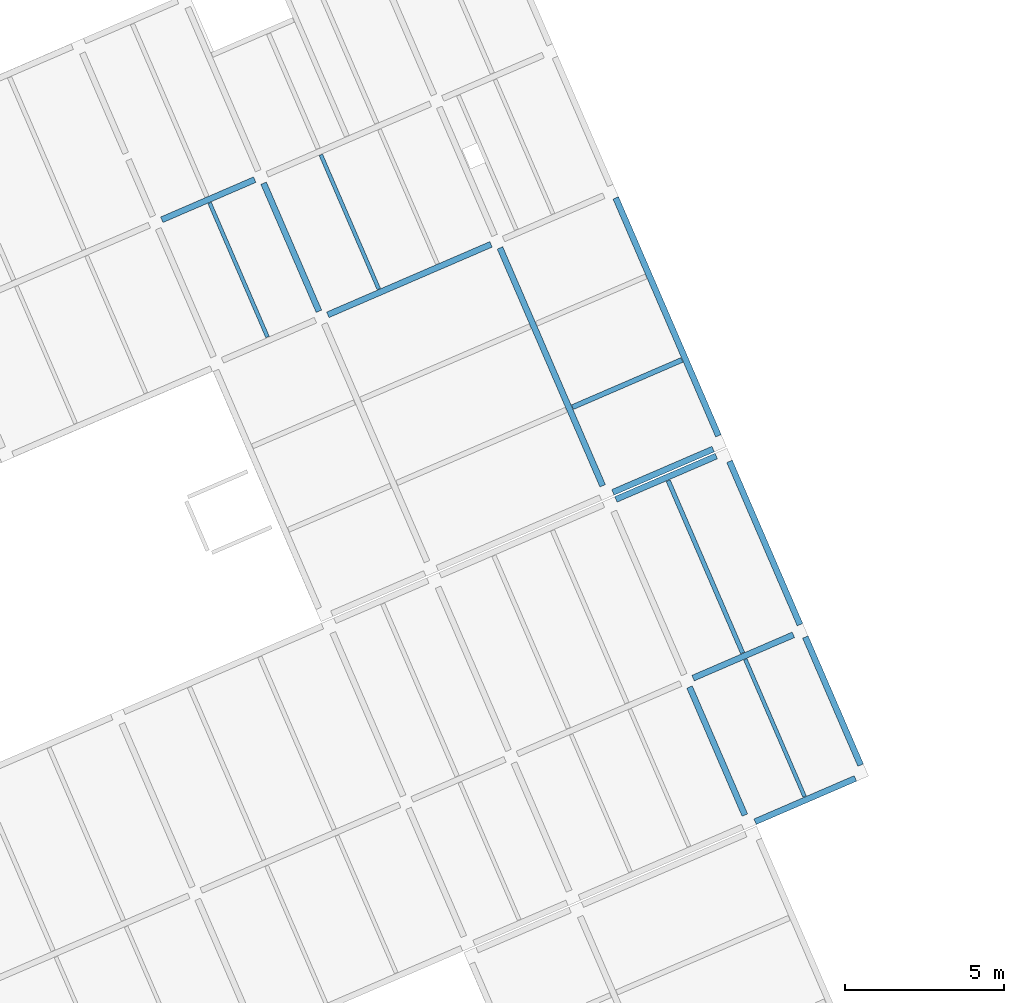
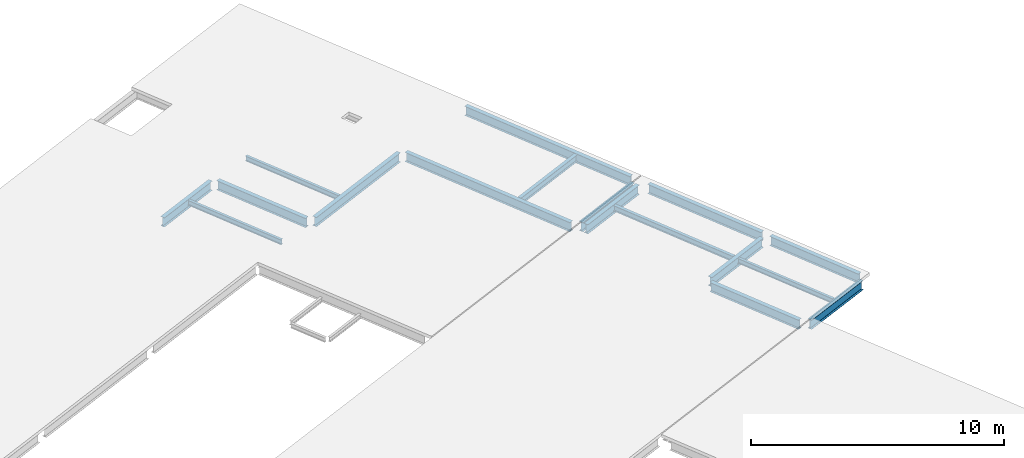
# One storey, part 13 of 15: 17 beams.
"""IFC4 building model written with IfcOpenShell, lengths in metres."""

import ifcopenshell
import ifcopenshell.guid

model = None  # the IFC model being written
_history = None  # IfcOwnerHistory: only IFC2X3 demands one
_inside = {}  # id of a spatial element -> (the spatial element, [elements in it])
_under = {}  # id of a project, library or spatial element -> (it, [spatial elements below it])
_declared = {}  # id of a project -> (the project, [libraries it declares])
_typed = {}  # id of a type object -> (the type object, [elements of that type])
_made_of = {}  # id of a material, layer set ... -> (it, [elements and type objects made of it])


def new_model(schema):
    """Start an empty IFC model of exactly this schema.

    Asked for "IFC4X3", IfcOpenShell would pick the latest addendum, in which some entities
    have other attributes; the version numbers below select the first issue.
    IFC2X3 requires an IfcOwnerHistory on every rooted entity: one is made here for all.
    """
    global model, _history
    if schema == "IFC4X3":
        model = ifcopenshell.file(schema_version=(4, 3, 0, 0))
    else:
        model = ifcopenshell.file(schema=schema)
    _inside.clear()
    _under.clear()
    _declared.clear()
    _typed.clear()
    _made_of.clear()
    _history = None
    if model.schema == "IFC2X3":
        org = make("IfcOrganization", Name="unknown")
        user = make(
            "IfcPersonAndOrganization",
            ThePerson=make("IfcPerson", FamilyName="unknown"),
            TheOrganization=org,
        )
        app = make(
            "IfcApplication",
            ApplicationDeveloper=org,
            Version="unknown",
            ApplicationFullName="unknown",
            ApplicationIdentifier="unknown",
        )
        _history = make(
            "IfcOwnerHistory",
            OwningUser=user,
            OwningApplication=app,
            ChangeAction="ADDED",
            CreationDate=0,
        )
    return model


def make(cls, **values):
    """One entity of the class cls with the attributes given. An attribute that is None is left unset."""
    return model.create_entity(
        cls, **{name: value for name, value in values.items() if value is not None}
    )


def entity(cls, *values):
    """Any entity or typed value of the class cls, its attributes in the order of the schema. None: left unset."""
    e = model.create_entity(cls)
    for i, value in enumerate(values):
        if value is not None:
            e[i] = value
    return e


def rooted(cls, **values):
    """An entity with a GlobalId (a new one), such as an element, a storey or a relation."""
    return make(cls, GlobalId=ifcopenshell.guid.new(), OwnerHistory=_history, **values)


def si_unit(unit_type, name, prefix=None):
    """IfcSIUnit, for example si_unit("LENGTHUNIT", "METRE", prefix="MILLI")."""
    return make("IfcSIUnit", UnitType=unit_type, Prefix=prefix, Name=name)


def converted_unit(unit_type, name, factor, base, dimensions=None, offset=None):
    """IfcConversionBasedUnit, such as the inch: factor (a typed value) times the base unit."""
    return make(
        "IfcConversionBasedUnit"
        if offset is None
        else "IfcConversionBasedUnitWithOffset",
        ConversionOffset=offset,
        Dimensions=None
        if dimensions is None
        else entity("IfcDimensionalExponents", *dimensions),
        UnitType=unit_type,
        Name=name,
        ConversionFactor=make(
            "IfcMeasureWithUnit", ValueComponent=factor, UnitComponent=base
        ),
    )


def derived_unit(unit_type, elements):
    """IfcDerivedUnit: a product of units, each with its exponent."""
    return make(
        "IfcDerivedUnit",
        Elements=[
            make("IfcDerivedUnitElement", Unit=unit, Exponent=power)
            for unit, power in elements
        ],
        UnitType=unit_type,
    )


def assignment(units):
    """IfcUnitAssignment: the units of a project."""
    return None if units is None else make("IfcUnitAssignment", Units=units)


def point(xyz):
    """IfcCartesianPoint."""
    return None if xyz is None else make("IfcCartesianPoint", Coordinates=xyz)


def direction(xyz):
    """IfcDirection."""
    return None if xyz is None else make("IfcDirection", DirectionRatios=xyz)


def frame(location, z_axis=None, x_axis=None):
    """IfcAxis2Placement3D, a coordinate frame: its origin and axes. An axis left out is left unset."""
    return make(
        "IfcAxis2Placement3D",
        Location=point(location),
        Axis=direction(z_axis),
        RefDirection=direction(x_axis),
    )


def origin():
    """The frame at (0, 0, 0) with its axes left unset."""
    return frame((0.0, 0.0, 0.0))


def place(relative_to, where):
    """IfcLocalPlacement: puts the frame where relative to a parent placement (None: the world)."""
    return make(
        "IfcLocalPlacement", PlacementRelTo=relative_to, RelativePlacement=where
    )


def context(
    kind, dimensions, precision=None, world=None, true_north=None, identifier=None
):
    """IfcGeometricRepresentationContext, for example the 3D "Model" context."""
    return make(
        "IfcGeometricRepresentationContext",
        ContextIdentifier=identifier,
        ContextType=kind,
        CoordinateSpaceDimension=dimensions,
        Precision=precision,
        WorldCoordinateSystem=world,
        TrueNorth=true_north,
    )


def subcontext(parent, identifier, kind, view, scale=None):
    """IfcGeometricRepresentationSubContext, for example "Body" below "Model"."""
    return make(
        "IfcGeometricRepresentationSubContext",
        ContextIdentifier=identifier,
        ContextType=kind,
        ParentContext=parent,
        TargetScale=scale,
        TargetView=view,
    )


def project(units=None, contexts=None):
    """IfcProject with its units and contexts."""
    return rooted(
        "IfcProject",
        Name="project",
        RepresentationContexts=contexts,
        UnitsInContext=assignment(units),
    )


def spatial(cls, under=None, at=None, **own):
    """A site, building, storey or space (cls), placed at a placement, below another one or the project."""
    s = rooted(cls, ObjectPlacement=at, **own)
    if under is not None:
        _under.setdefault(under.id(), (under, []))[1].append(s)
    return s


def point_list(points):
    """IfcCartesianPointList2D or 3D."""
    cls = (
        "IfcCartesianPointList2D" if len(points[0]) == 2 else "IfcCartesianPointList3D"
    )
    return make(cls, CoordList=points)


def line(*indices):
    """IfcLineIndex: a straight run through numbered points of an indexed curve."""
    return model.create_entity("IfcLineIndex", indices)


def arc(*indices):
    """IfcArcIndex: an arc through three numbered points of an indexed curve."""
    return model.create_entity("IfcArcIndex", indices)


def indexed_curve(points, segments=None, self_intersect=None):
    """IfcIndexedPolyCurve: lines and arcs through numbered points (the first is 1)."""
    return make(
        "IfcIndexedPolyCurve",
        Points=point_list(points),
        Segments=segments,
        SelfIntersect=self_intersect,
    )


def outline(outer, holes=None, kind="AREA"):
    """IfcArbitraryClosedProfileDef: a profile drawn as a closed curve; with holes, ...WithVoids."""
    if holes is None:
        return make("IfcArbitraryClosedProfileDef", ProfileType=kind, OuterCurve=outer)
    return make(
        "IfcArbitraryProfileDefWithVoids",
        ProfileType=kind,
        OuterCurve=outer,
        InnerCurves=holes,
    )


def extrude(swept, where, along, depth):
    """IfcExtrudedAreaSolid: the profile swept, set in the frame where, extruded along a direction by depth."""
    return make(
        "IfcExtrudedAreaSolid",
        SweptArea=swept,
        Position=where,
        ExtrudedDirection=direction(along),
        Depth=depth,
    )


def shape(context_of_items, identifier, shape_type, items):
    """IfcShapeRepresentation: the items that make up one representation, for example the "Body"."""
    return make(
        "IfcShapeRepresentation",
        ContextOfItems=context_of_items,
        RepresentationIdentifier=identifier,
        RepresentationType=shape_type,
        Items=items,
    )


def source(mapping_origin, context_of_items, identifier, shape_type, items):
    """IfcRepresentationMap: a shape defined once, which mapped items show again and again."""
    return make(
        "IfcRepresentationMap",
        MappingOrigin=mapping_origin,
        MappedRepresentation=shape(context_of_items, identifier, shape_type, items),
    )


def transform(
    local_origin,
    x_axis=None,
    y_axis=None,
    z_axis=None,
    scale=None,
    scale2=None,
    scale3=None,
    uniform=True,
):
    """IfcCartesianTransformationOperator3D, or its non-uniform kind. x_axis, y_axis, z_axis: its Axis1, 2, 3."""
    if uniform:
        return make(
            "IfcCartesianTransformationOperator3D",
            Axis1=direction(x_axis),
            Axis2=direction(y_axis),
            LocalOrigin=point(local_origin),
            Scale=scale,
            Axis3=direction(z_axis),
        )
    return make(
        "IfcCartesianTransformationOperator3DnonUniform",
        Axis1=direction(x_axis),
        Axis2=direction(y_axis),
        LocalOrigin=point(local_origin),
        Scale=scale,
        Axis3=direction(z_axis),
        Scale2=scale2,
        Scale3=scale3,
    )


def mapped(mapping_source, mapping_target):
    """IfcMappedItem: shows the shape of a source again, moved by a transform."""
    return make(
        "IfcMappedItem", MappingSource=mapping_source, MappingTarget=mapping_target
    )


def material(Name=None, Category=None):
    """IfcMaterial."""
    return make("IfcMaterial", Name=Name, Category=Category)


def made_of(thing, what):
    """Note that an element or type object is made of a material, layer set ...; save() writes the relation."""
    if what is not None:
        _made_of.setdefault(what.id(), (what, []))[1].append(thing)
    return thing


def type_object(cls, material=None, **own):
    """A type object (cls), such as IfcWallType, which elements share."""
    return made_of(rooted(cls, **own), material)


def type_shapes(of_type, sources):
    """Give a type object the sources (RepresentationMaps) that its elements show as mapped items."""
    of_type.RepresentationMaps = sources


def element(
    cls,
    number,
    at=None,
    inside=None,
    cuts=None,
    type_object=None,
    material=None,
    context=None,
    identifier="Body",
    shape_type=None,
    held_by="IfcProductDefinitionShape",
    body=None,
    shapes=None,
    **own,
):
    """One element of the class cls, such as IfcWall. Its Tag is "e" and its number.

    at: its placement. inside: the storey or other place that contains it. cuts: it is an
    opening in that element (IfcRelVoidsElement). A single representation is given by context,
    identifier, shape_type and body (its items); several are given by shapes. held_by: the class
    of the entity that holds the representations. save() writes the other relations.
    """
    e = rooted(cls, Tag="e%d" % number, ObjectPlacement=at, **own)
    if body is not None:
        shapes = [shape(context, identifier, shape_type, body)]
    if shapes is not None:
        e.Representation = make(held_by, Representations=shapes)
    if inside is not None:
        _inside.setdefault(inside.id(), (inside, []))[1].append(e)
    if cuts is not None:
        rooted(
            "IfcRelVoidsElement", RelatingBuildingElement=cuts, RelatedOpeningElement=e
        )
    if type_object is not None:
        _typed.setdefault(type_object.id(), (type_object, []))[1].append(e)
    return made_of(e, material)


def aggregate(whole, parts):
    """IfcRelAggregates: a whole, such as a stair, and the parts it consists of."""
    return rooted("IfcRelAggregates", RelatingObject=whole, RelatedObjects=parts)


def save(model, path):
    """Write the relations noted so far, then the file.

    IfcRelAggregates (storeys below a building ...), IfcRelContainedInSpatialStructure (elements
    in a storey), IfcRelDefinesByType, IfcRelAssociatesMaterial and IfcRelDeclares: one each for
    every whole, place, type object, material and project.
    """
    for whole, parts in _under.values():
        aggregate(whole, parts)
    for where, things in _inside.values():
        rooted(
            "IfcRelContainedInSpatialStructure",
            RelatedElements=things,
            RelatingStructure=where,
        )
    for kind, things in _typed.values():
        rooted("IfcRelDefinesByType", RelatedObjects=things, RelatingType=kind)
    for what, things in _made_of.values():
        rooted("IfcRelAssociatesMaterial", RelatedObjects=things, RelatingMaterial=what)
    for by, libraries in _declared.values():
        rooted("IfcRelDeclares", RelatingContext=by, RelatedDefinitions=libraries)
    model.write(path)


model = new_model("IFC4")

# Units and contexts
model_context = context("Model", 3, precision=1e-05, world=origin(), true_north=direction((6.12323399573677e-17, 1.0)))
body_context = subcontext(model_context, "Body", "Model", "MODEL_VIEW")
ifc_project = project(units=[si_unit("LENGTHUNIT", "METRE"), si_unit("AREAUNIT", "SQUARE_METRE"), si_unit("VOLUMEUNIT", "CUBIC_METRE"), converted_unit("PLANEANGLEUNIT", "DEGREE", entity("IfcPlaneAngleMeasure", 0.0174532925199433), si_unit("PLANEANGLEUNIT", "RADIAN"), dimensions=[0, 0, 0, 0, 0, 0, 0]), si_unit("MASSUNIT", "GRAM", prefix="KILO"), derived_unit("MOMENTOFINERTIAUNIT", [(si_unit("LENGTHUNIT", "METRE"), 4)]), derived_unit("LINEARFORCEUNIT", [(si_unit("MASSUNIT", "GRAM", prefix="KILO"), 1), (si_unit("TIMEUNIT", "SECOND"), -2)]), derived_unit("WARPINGCONSTANTUNIT", [(si_unit("LENGTHUNIT", "METRE"), 6)]), derived_unit("THERMALTRANSMITTANCEUNIT", [(si_unit("MASSUNIT", "GRAM", prefix="KILO"), 1), (si_unit("THERMODYNAMICTEMPERATUREUNIT", "KELVIN"), -1), (si_unit("TIMEUNIT", "SECOND"), -3)]), derived_unit("USERDEFINED", [(si_unit("MASSUNIT", "GRAM", prefix="KILO"), 1), (si_unit("TIMEUNIT", "SECOND"), -2), (si_unit("THERMODYNAMICTEMPERATUREUNIT", "KELVIN"), -1)]), derived_unit("THERMALRESISTANCEUNIT", [(si_unit("MASSUNIT", "GRAM", prefix="KILO"), -1), (si_unit("TIMEUNIT", "SECOND"), 3), (si_unit("THERMODYNAMICTEMPERATUREUNIT", "KELVIN"), 1)])], contexts=[model_context])

# Site, building, storey
site_placement = place(None, origin())
site = spatial("IfcSite", under=ifc_project, at=site_placement, Name="Default", CompositionType="ELEMENT")
building_placement = place(site_placement, frame((12.6613425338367, -82.5732315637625, 317.15), z_axis=(0.0, 0.0, 1.0), x_axis=(-0.396377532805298, 0.918087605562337, 0.0)))
building = spatial("IfcBuilding", under=site, at=building_placement, Name="CESFAM Coyhaique", CompositionType="ELEMENT")
storey_placement = place(building_placement, frame((0.0, 0.0, 8.45000000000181)))
storey = spatial("IfcBuildingStorey", under=building, at=storey_placement, Name="Nivel 3", CompositionType="ELEMENT", Elevation=8.45000000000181)

# Beams
ifc_material = material(Name="Steel, 45-345", Category="Metal")
beam_type_1 = type_object("IfcBeamType", Name="M_W Shapes:W450X190mm", PredefinedType="BEAM", material=ifc_material)
shared_shape_1 = source(origin(), body_context, "Body", "SweptSolid", [
    extrude(outline(indexed_curve([(-0.224999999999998, -0.0950000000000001), (-0.215349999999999, -0.0950000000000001), (-0.215349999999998, -0.0105700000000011), (-0.213109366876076, -0.00516063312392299), (-0.207699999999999, -0.0029200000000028), (0.207700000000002, -0.0029200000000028), (0.21310936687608, -0.00516063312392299), (0.215350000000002, -0.0105700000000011), (0.215350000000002, -0.0950000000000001), (0.225000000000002, -0.0950000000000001), (0.225000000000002, 0.0950000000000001), (0.215350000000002, 0.0950000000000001), (0.215350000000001, 0.0105699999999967), (0.21310936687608, 0.00516063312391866), (0.207700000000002, 0.00291999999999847), (-0.207699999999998, 0.00291999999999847), (-0.213109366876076, 0.00516063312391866), (-0.215349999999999, 0.0105700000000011), (-0.215349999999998, 0.0950000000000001), (-0.224999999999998, 0.0950000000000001)], segments=[line(1, 2, 3), arc(3, 4, 5), line(5, 6), arc(6, 7, 8), line(8, 9, 10, 11, 12, 13), arc(13, 14, 15), line(15, 16), arc(16, 17, 18), line(18, 19, 20, 1)], self_intersect=False)), frame((24.1815534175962, -21.1971495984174, 8.07500000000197), z_axis=(1.0, 0.0, 0.0), x_axis=(0.0, 0.0, -1.0)), (0.0, 0.0, 1.0), 4.3746),
])
type_shapes(beam_type_1, [shared_shape_1])
beam_1_placement = place(storey_placement, frame((0.0, 0.0, -8.45000000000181)))
element("IfcBeam", 1, at=beam_1_placement, inside=storey, type_object=beam_type_1, Name="M_W Shapes:W450X190mm", ObjectType="M_W Shapes:W450X190mm", PredefinedType="BEAM", context=body_context, shape_type="MappedRepresentation", body=[
    mapped(shared_shape_1, transform((0.0, 0.0, 0.0), scale=1.0)),
])
beam_type_2 = type_object("IfcBeamType", Name="M_W Shapes:W450X190mm", PredefinedType="BEAM", material=ifc_material)
shared_shape_2 = source(origin(), body_context, "Body", "SweptSolid", [
    extrude(outline(indexed_curve([(-0.0950000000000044, -0.225000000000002), (0.0949999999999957, -0.225000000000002), (0.0950000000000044, -0.215350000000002), (0.0105699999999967, -0.215350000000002), (0.00516063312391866, -0.213109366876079), (0.0029200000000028, -0.207700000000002), (0.00291999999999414, 0.207699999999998), (0.00516063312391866, 0.213109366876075), (0.0105699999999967, 0.215349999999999), (0.0949999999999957, 0.215349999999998), (0.0949999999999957, 0.224999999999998), (-0.0950000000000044, 0.224999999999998), (-0.0950000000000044, 0.215349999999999), (-0.0105700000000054, 0.215349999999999), (-0.00516063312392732, 0.213109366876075), (-0.0029200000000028, 0.207699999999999), (-0.0029200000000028, -0.207700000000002), (-0.00516063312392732, -0.213109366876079), (-0.0105699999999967, -0.215350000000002), (-0.0950000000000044, -0.215350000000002)], segments=[line(1, 2, 3, 4), arc(4, 5, 6), line(6, 7), arc(7, 8, 9), line(9, 10, 11, 12, 13, 14), arc(14, 15, 16), line(16, 17), arc(17, 18, 19), line(19, 20, 1)], self_intersect=False)), frame((48.5688534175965, -14.9844495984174, 8.07500000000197), z_axis=(0.0, 1.0, 0.0), x_axis=(-1.0, 0.0, 0.0)), (0.0, 0.0, 1.0), 3.1746),
])
type_shapes(beam_type_2, [shared_shape_2])
beam_2_placement = place(storey_placement, frame((0.0, 0.0, -8.45000000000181)))
element("IfcBeam", 2, at=beam_2_placement, inside=storey, type_object=beam_type_2, Name="M_W Shapes:W450X190mm", ObjectType="M_W Shapes:W450X190mm", PredefinedType="BEAM", context=body_context, shape_type="MappedRepresentation", body=[
    mapped(shared_shape_2, transform((0.0, 0.0, 0.0), scale=1.0)),
])
beam_type_3 = type_object("IfcBeamType", Name="M_W Shapes:W450X190mm", PredefinedType="BEAM", material=ifc_material)
shared_shape_3 = source(origin(), body_context, "Body", "SweptSolid", [
    extrude(outline(indexed_curve([(-0.0949999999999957, -0.225000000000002), (0.0950000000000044, -0.225000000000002), (0.0950000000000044, -0.215350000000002), (0.0105700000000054, -0.215350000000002), (0.00516063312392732, -0.213109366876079), (0.00292000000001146, -0.207700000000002), (0.0029200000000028, 0.207699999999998), (0.00516063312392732, 0.213109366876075), (0.0105700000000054, 0.215349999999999), (0.0950000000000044, 0.215349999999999), (0.0950000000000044, 0.224999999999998), (-0.0949999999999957, 0.224999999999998), (-0.0949999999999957, 0.215349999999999), (-0.0105699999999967, 0.215349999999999), (-0.00516063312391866, 0.213109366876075), (-0.00291999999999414, 0.207699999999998), (-0.00291999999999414, -0.207700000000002), (-0.00516063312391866, -0.213109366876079), (-0.0105699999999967, -0.215350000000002), (-0.0949999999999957, -0.215350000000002)], segments=[line(1, 2, 3, 4), arc(4, 5, 6), line(6, 7), arc(7, 8, 9), line(9, 10, 11, 12, 13, 14), arc(14, 15, 16), line(16, 17), arc(17, 18, 19), line(19, 20, 1)], self_intersect=False)), frame((43.7688534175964, -20.9844495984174, 8.07500000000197), z_axis=(0.0, 1.0, 0.0), x_axis=(-1.0, 0.0, 0.0)), (0.0, 0.0, 1.0), 5.5746),
])
type_shapes(beam_type_3, [shared_shape_3])
beam_3_placement = place(storey_placement, frame((0.0, 0.0, -8.45000000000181)))
element("IfcBeam", 3, at=beam_3_placement, inside=storey, type_object=beam_type_3, Name="M_W Shapes:W450X190mm", ObjectType="M_W Shapes:W450X190mm", PredefinedType="BEAM", context=body_context, shape_type="MappedRepresentation", body=[
    mapped(shared_shape_3, transform((0.0, 0.0, 0.0), scale=1.0)),
])
beam_type_4 = type_object("IfcBeamType", Name="M_W Shapes:W450X190mm", PredefinedType="BEAM", material=ifc_material)
shared_shape_4 = source(origin(), body_context, "Body", "SweptSolid", [
    extrude(outline(indexed_curve([(-0.224999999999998, -0.0950000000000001), (-0.215349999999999, -0.0950000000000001), (-0.215349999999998, -0.0105700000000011), (-0.213109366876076, -0.00516063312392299), (-0.207699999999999, -0.0029200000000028), (0.207700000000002, -0.0029200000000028), (0.21310936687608, -0.00516063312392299), (0.215350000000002, -0.0105700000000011), (0.215350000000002, -0.0950000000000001), (0.225000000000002, -0.0950000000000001), (0.225000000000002, 0.0950000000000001), (0.215350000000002, 0.0950000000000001), (0.215350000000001, 0.0105699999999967), (0.21310936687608, 0.00516063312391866), (0.207700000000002, 0.00291999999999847), (-0.207699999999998, 0.00291999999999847), (-0.213109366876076, 0.00516063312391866), (-0.215349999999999, 0.0105700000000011), (-0.215349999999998, 0.0950000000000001), (-0.224999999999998, 0.0950000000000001)], segments=[line(1, 2, 3), arc(3, 4, 5), line(5, 6), arc(6, 7, 8), line(8, 9, 10, 11, 12, 13), arc(13, 14, 15), line(15, 16), arc(16, 17, 18), line(18, 19, 20, 1)], self_intersect=False)), frame((35.4315534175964, -21.1971495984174, 8.07500000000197), z_axis=(1.0, 0.0, 0.0), x_axis=(0.0, 0.0, -1.0)), (0.0, 0.0, 1.0), 8.1246),
])
type_shapes(beam_type_4, [shared_shape_4])
beam_4_placement = place(storey_placement, frame((0.0, 0.0, -8.45000000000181)))
element("IfcBeam", 4, at=beam_4_placement, inside=storey, type_object=beam_type_4, Name="M_W Shapes:W450X190mm", ObjectType="M_W Shapes:W450X190mm", PredefinedType="BEAM", context=body_context, shape_type="MappedRepresentation", body=[
    mapped(shared_shape_4, transform((0.0, 0.0, 0.0), scale=1.0)),
])
beam_type_5 = type_object("IfcBeamType", Name="M_W Shapes:W450X190mm", PredefinedType="BEAM", material=ifc_material)
shared_shape_5 = source(origin(), body_context, "Body", "SweptSolid", [
    extrude(outline(indexed_curve([(-0.224999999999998, -0.0950000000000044), (-0.215349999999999, -0.0950000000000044), (-0.215349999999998, -0.0105700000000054), (-0.213109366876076, -0.00516063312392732), (-0.207699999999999, -0.00292000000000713), (0.207700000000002, -0.00292000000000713), (0.21310936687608, -0.00516063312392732), (0.215350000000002, -0.0105700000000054), (0.215350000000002, -0.0950000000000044), (0.225000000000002, -0.0950000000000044), (0.225000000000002, 0.0949999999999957), (0.215350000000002, 0.0949999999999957), (0.215350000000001, 0.0105699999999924), (0.21310936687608, 0.00516063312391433), (0.207700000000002, 0.00291999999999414), (-0.207699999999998, 0.00291999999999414), (-0.213109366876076, 0.00516063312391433), (-0.215349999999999, 0.0105699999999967), (-0.215349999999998, 0.0949999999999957), (-0.224999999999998, 0.0949999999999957)], segments=[line(1, 2, 3), arc(3, 4, 5), line(5, 6), arc(6, 7, 8), line(8, 9, 10, 11, 12, 13), arc(13, 14, 15), line(15, 16), arc(16, 17, 18), line(18, 19, 20, 1)], self_intersect=False)), frame((35.4315534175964, -25.1521495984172, 8.07500000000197), z_axis=(1.0, 0.0, 0.0), x_axis=(0.0, 0.0, -1.0)), (0.0, 0.0, 1.0), 8.1246),
])
type_shapes(beam_type_5, [shared_shape_5])
beam_5_placement = place(storey_placement, frame((0.0, 0.0, -8.45000000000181)))
element("IfcBeam", 5, at=beam_5_placement, inside=storey, type_object=beam_type_5, Name="M_W Shapes:W450X190mm", ObjectType="M_W Shapes:W450X190mm", PredefinedType="BEAM", context=body_context, shape_type="MappedRepresentation", body=[
    mapped(shared_shape_5, transform((0.0, 0.0, 0.0), scale=1.0)),
])
beam_type_6 = type_object("IfcBeamType", Name="M_W Shapes:W450X190mm", PredefinedType="BEAM", material=ifc_material)
shared_shape_6 = source(origin(), body_context, "Body", "SweptSolid", [
    extrude(outline(indexed_curve([(-0.224999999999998, -0.0950000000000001), (-0.215349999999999, -0.0949999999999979), (-0.215349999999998, -0.0105699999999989), (-0.213109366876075, -0.00516063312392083), (-0.207699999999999, -0.00291999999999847), (0.207700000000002, -0.00291999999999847), (0.213109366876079, -0.00516063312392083), (0.215350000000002, -0.0105699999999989), (0.215350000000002, -0.0950000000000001), (0.225000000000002, -0.0950000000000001), (0.225000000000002, 0.0950000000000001), (0.215350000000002, 0.0950000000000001), (0.215350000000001, 0.0105700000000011), (0.213109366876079, 0.00516063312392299), (0.207700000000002, 0.00292000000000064), (-0.207699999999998, 0.00292000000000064), (-0.213109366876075, 0.00516063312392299), (-0.215349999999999, 0.0105700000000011), (-0.215349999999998, 0.0950000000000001), (-0.224999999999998, 0.0950000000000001)], segments=[line(1, 2, 3), arc(3, 4, 5), line(5, 6), arc(6, 7, 8), line(8, 9, 10, 11, 12, 13), arc(13, 14, 15), line(15, 16), arc(16, 17, 18), line(18, 19, 20, 1)], self_intersect=False)), frame((43.9815534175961, -15.1971495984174, 8.07500000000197), z_axis=(1.0, 0.0, 0.0), x_axis=(0.0, 0.0, -1.0)), (0.0, 0.0, 1.0), 4.3746),
])
type_shapes(beam_type_6, [shared_shape_6])
beam_6_placement = place(storey_placement, frame((0.0, 0.0, -8.45000000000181)))
element("IfcBeam", 6, at=beam_6_placement, inside=storey, type_object=beam_type_6, Name="M_W Shapes:W450X190mm", ObjectType="M_W Shapes:W450X190mm", PredefinedType="BEAM", context=body_context, shape_type="MappedRepresentation", body=[
    mapped(shared_shape_6, transform((0.0, 0.0, 0.0), scale=1.0)),
])
beam_type_7 = type_object("IfcBeamType", Name="M_W Shapes:W450X190mm", PredefinedType="BEAM", material=ifc_material)
shared_shape_7 = source(origin(), body_context, "Body", "SweptSolid", [
    extrude(outline(indexed_curve([(-0.0950000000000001, -0.225000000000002), (0.0950000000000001, -0.225000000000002), (0.0950000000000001, -0.215350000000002), (0.0105699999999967, -0.215350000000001), (0.00516063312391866, -0.21310936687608), (0.00291999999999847, -0.207700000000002), (0.00291999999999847, 0.207699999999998), (0.00516063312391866, 0.213109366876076), (0.0105699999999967, 0.215349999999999), (0.0950000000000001, 0.215349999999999), (0.0950000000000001, 0.224999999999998), (-0.0950000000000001, 0.224999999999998), (-0.0950000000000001, 0.215349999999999), (-0.0105700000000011, 0.215349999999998), (-0.00516063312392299, 0.213109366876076), (-0.0029200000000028, 0.207699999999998), (-0.0029200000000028, -0.207700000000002), (-0.00516063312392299, -0.21310936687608), (-0.0105700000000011, -0.215350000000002), (-0.0950000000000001, -0.215350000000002)], segments=[line(1, 2, 3, 4), arc(4, 5, 6), line(6, 7), arc(7, 8, 9), line(9, 10, 11, 12, 13, 14), arc(14, 15, 16), line(16, 17), arc(17, 18, 19), line(19, 20, 1)], self_intersect=False)), frame((23.8638534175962, -24.8344495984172, 8.07500000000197), z_axis=(0.0, 1.0, 0.0), x_axis=(-1.0, 0.0, 0.0)), (0.0, 0.0, 1.0), 3.4246),
])
type_shapes(beam_type_7, [shared_shape_7])
beam_7_placement = place(storey_placement, frame((0.0, 0.0, -8.45000000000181)))
element("IfcBeam", 7, at=beam_7_placement, inside=storey, type_object=beam_type_7, Name="M_W Shapes:W450X190mm", ObjectType="M_W Shapes:W450X190mm", PredefinedType="BEAM", context=body_context, shape_type="MappedRepresentation", body=[
    mapped(shared_shape_7, transform((0.0, 0.0, 0.0), scale=1.0)),
])
beam_type_8 = type_object("IfcBeamType", Name="M_W Shapes:W450X190mm", PredefinedType="BEAM", material=ifc_material)
shared_shape_8 = source(origin(), body_context, "Body", "SweptSolid", [
    extrude(outline(indexed_curve([(-0.0950000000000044, -0.225000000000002), (0.0949999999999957, -0.225000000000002), (0.0949999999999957, -0.215350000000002), (0.0105699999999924, -0.215350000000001), (0.00516063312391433, -0.21310936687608), (0.00291999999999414, -0.207700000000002), (0.00291999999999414, 0.207699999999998), (0.00516063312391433, 0.213109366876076), (0.0105699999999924, 0.215349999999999), (0.0949999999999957, 0.215349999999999), (0.0949999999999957, 0.224999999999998), (-0.0950000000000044, 0.224999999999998), (-0.0950000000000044, 0.215349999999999), (-0.0105700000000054, 0.215349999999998), (-0.00516063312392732, 0.213109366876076), (-0.00292000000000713, 0.207699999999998), (-0.00292000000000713, -0.207700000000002), (-0.00516063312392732, -0.21310936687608), (-0.0105700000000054, -0.215350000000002), (-0.0950000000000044, -0.215350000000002)], segments=[line(1, 2, 3, 4), arc(4, 5, 6), line(6, 7), arc(7, 8, 9), line(9, 10, 11, 12, 13, 14), arc(14, 15, 16), line(16, 17), arc(17, 18, 19), line(19, 20, 1)], self_intersect=False)), frame((28.7688534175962, -24.8344495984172, 8.07500000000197), z_axis=(0.0, 1.0, 0.0), x_axis=(-1.0, 0.0, 0.0)), (0.0, 0.0, 1.0), 3.4246),
])
type_shapes(beam_type_8, [shared_shape_8])
beam_8_placement = place(storey_placement, frame((0.0, 0.0, -8.45000000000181)))
element("IfcBeam", 8, at=beam_8_placement, inside=storey, type_object=beam_type_8, Name="M_W Shapes:W450X190mm", ObjectType="M_W Shapes:W450X190mm", PredefinedType="BEAM", context=body_context, shape_type="MappedRepresentation", body=[
    mapped(shared_shape_8, transform((0.0, 0.0, 0.0), scale=1.0)),
])
beam_type_9 = type_object("IfcBeamType", Name="M_W Shapes:W450X190mm", PredefinedType="BEAM", material=ifc_material)
shared_shape_9 = source(origin(), body_context, "Body", "SweptSolid", [
    extrude(outline(indexed_curve([(-0.224999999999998, -0.0950000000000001), (-0.215349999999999, -0.0950000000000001), (-0.215349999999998, -0.0105700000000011), (-0.213109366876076, -0.00516063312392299), (-0.207699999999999, -0.0029200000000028), (0.207700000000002, -0.0029200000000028), (0.21310936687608, -0.00516063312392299), (0.215350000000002, -0.0105700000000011), (0.215350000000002, -0.0950000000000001), (0.225000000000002, -0.0950000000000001), (0.225000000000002, 0.0950000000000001), (0.215350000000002, 0.0950000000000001), (0.215350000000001, 0.0105699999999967), (0.21310936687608, 0.00516063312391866), (0.207700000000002, 0.00291999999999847), (-0.207699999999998, 0.00291999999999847), (-0.213109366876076, 0.00516063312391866), (-0.215349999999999, 0.0105700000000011), (-0.215349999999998, 0.0950000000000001), (-0.224999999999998, 0.0950000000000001)], segments=[line(1, 2, 3), arc(3, 4, 5), line(5, 6), arc(6, 7, 8), line(8, 9, 10, 11, 12, 13), arc(13, 14, 15), line(15, 16), arc(16, 17, 18), line(18, 19, 20, 1)], self_intersect=False)), frame((24.1815534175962, -25.1521495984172, 8.07500000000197), z_axis=(1.0, 0.0, 0.0), x_axis=(0.0, 0.0, -1.0)), (0.0, 0.0, 1.0), 4.3746),
])
type_shapes(beam_type_9, [shared_shape_9])
beam_9_placement = place(storey_placement, frame((0.0, 0.0, -8.45000000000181)))
element("IfcBeam", 9, at=beam_9_placement, inside=storey, type_object=beam_type_9, Name="M_W Shapes:W450X190mm", ObjectType="M_W Shapes:W450X190mm", PredefinedType="BEAM", context=body_context, shape_type="MappedRepresentation", body=[
    mapped(shared_shape_9, transform((0.0, 0.0, 0.0), scale=1.0)),
])
beam_type_10 = type_object("IfcBeamType", Name="M_W Shapes:W450X190mm", PredefinedType="BEAM", material=ifc_material)
shared_shape_10 = source(origin(), body_context, "Body", "SweptSolid", [
    extrude(outline(indexed_curve([(-0.224999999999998, -0.0950000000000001), (-0.215349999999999, -0.0950000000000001), (-0.215349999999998, -0.0105700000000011), (-0.213109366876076, -0.00516063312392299), (-0.207699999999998, -0.0029200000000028), (0.207700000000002, -0.0029200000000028), (0.21310936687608, -0.00516063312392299), (0.215350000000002, -0.0105700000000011), (0.215350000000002, -0.0950000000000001), (0.225000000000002, -0.0950000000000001), (0.225000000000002, 0.0950000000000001), (0.215350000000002, 0.0950000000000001), (0.215350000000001, 0.0105699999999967), (0.21310936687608, 0.00516063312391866), (0.207700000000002, 0.00291999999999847), (-0.207699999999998, 0.00291999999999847), (-0.213109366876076, 0.00516063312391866), (-0.215349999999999, 0.0105699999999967), (-0.215349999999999, 0.0950000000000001), (-0.224999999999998, 0.0950000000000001)], segments=[line(1, 2, 3), arc(3, 4, 5), line(5, 6), arc(6, 7, 8), line(8, 9, 10, 11, 12, 13), arc(13, 14, 15), line(15, 16), arc(16, 17, 18), line(18, 19, 20, 1)], self_intersect=False)), frame((28.9815534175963, -25.1521495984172, 8.07500000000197), z_axis=(1.0, 0.0, 0.0), x_axis=(0.0, 0.0, -1.0)), (0.0, 0.0, 1.0), 5.5746),
])
type_shapes(beam_type_10, [shared_shape_10])
beam_10_placement = place(storey_placement, frame((0.0, 0.0, -8.45000000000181)))
element("IfcBeam", 10, at=beam_10_placement, inside=storey, type_object=beam_type_10, Name="M_W Shapes:W450X190mm", ObjectType="M_W Shapes:W450X190mm", PredefinedType="BEAM", context=body_context, shape_type="MappedRepresentation", body=[
    mapped(shared_shape_10, transform((0.0, 0.0, 0.0), scale=1.0)),
])
beam_type_11 = type_object("IfcBeamType", Name="M_W Shapes:W450X190mm", PredefinedType="BEAM", material=ifc_material)
shared_shape_11 = source(origin(), body_context, "Body", "SweptSolid", [
    extrude(outline(indexed_curve([(-0.0950000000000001, -0.225000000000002), (0.0950000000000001, -0.225000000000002), (0.0950000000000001, -0.215350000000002), (0.0105699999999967, -0.215350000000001), (0.00516063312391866, -0.21310936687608), (0.00291999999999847, -0.207700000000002), (0.00291999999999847, 0.207699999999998), (0.00516063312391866, 0.213109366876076), (0.0105700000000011, 0.215349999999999), (0.0950000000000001, 0.215349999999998), (0.0950000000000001, 0.224999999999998), (-0.0950000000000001, 0.224999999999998), (-0.0950000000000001, 0.215349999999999), (-0.0105700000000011, 0.215349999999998), (-0.00516063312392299, 0.213109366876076), (-0.0029200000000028, 0.207699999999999), (-0.0029200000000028, -0.207700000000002), (-0.00516063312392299, -0.21310936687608), (-0.0105700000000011, -0.215350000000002), (-0.0950000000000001, -0.215350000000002)], segments=[line(1, 2, 3, 4), arc(4, 5, 6), line(6, 7), arc(7, 8, 9), line(9, 10, 11, 12, 13, 14), arc(14, 15, 16), line(16, 17), arc(17, 18, 19), line(19, 20, 1)], self_intersect=False)), frame((34.8738534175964, -24.8344495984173, 8.07500000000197), z_axis=(0.0, 1.0, 0.0), x_axis=(-1.0, 0.0, 0.0)), (0.0, 0.0, 1.0), 3.4246),
])
type_shapes(beam_type_11, [shared_shape_11])
beam_11_placement = place(storey_placement, frame((0.0, 0.0, -8.45000000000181)))
element("IfcBeam", 11, at=beam_11_placement, inside=storey, type_object=beam_type_11, Name="M_W Shapes:W450X190mm", ObjectType="M_W Shapes:W450X190mm", PredefinedType="BEAM", context=body_context, shape_type="MappedRepresentation", body=[
    mapped(shared_shape_11, transform((0.0, 0.0, 0.0), scale=1.0)),
])
beam_type_12 = type_object("IfcBeamType", Name="M_W Shapes:W450X190mm", PredefinedType="BEAM", material=ifc_material)
shared_shape_12 = source(origin(), body_context, "Body", "SweptSolid", [
    extrude(outline(indexed_curve([(-0.0950000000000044, -0.225000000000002), (0.0949999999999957, -0.225000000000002), (0.0949999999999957, -0.215350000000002), (0.0105699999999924, -0.215350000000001), (0.00516063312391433, -0.21310936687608), (0.00291999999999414, -0.207700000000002), (0.00291999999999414, 0.207699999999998), (0.00516063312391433, 0.213109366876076), (0.0105699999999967, 0.215349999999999), (0.0949999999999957, 0.215349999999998), (0.0949999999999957, 0.224999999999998), (-0.0950000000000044, 0.224999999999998), (-0.0950000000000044, 0.215349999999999), (-0.0105700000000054, 0.215349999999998), (-0.00516063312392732, 0.213109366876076), (-0.00292000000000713, 0.207699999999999), (-0.00292000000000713, -0.207700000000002), (-0.00516063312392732, -0.21310936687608), (-0.0105700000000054, -0.215350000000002), (-0.0950000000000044, -0.215350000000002)], segments=[line(1, 2, 3, 4), arc(4, 5, 6), line(6, 7), arc(7, 8, 9), line(9, 10, 11, 12, 13, 14), arc(14, 15, 16), line(16, 17), arc(17, 18, 19), line(19, 20, 1)], self_intersect=False)), frame((35.1138534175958, -24.8344495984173, 8.07500000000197), z_axis=(0.0, 1.0, 0.0), x_axis=(-1.0, 0.0, 0.0)), (0.0, 0.0, 1.0), 3.4246),
])
type_shapes(beam_type_12, [shared_shape_12])
beam_12_placement = place(storey_placement, frame((0.0, 0.0, -8.45000000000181)))
element("IfcBeam", 12, at=beam_12_placement, inside=storey, type_object=beam_type_12, Name="M_W Shapes:W450X190mm", ObjectType="M_W Shapes:W450X190mm", PredefinedType="BEAM", context=body_context, shape_type="MappedRepresentation", body=[
    mapped(shared_shape_12, transform((0.0, 0.0, 0.0), scale=1.0)),
])
beam_type_13 = type_object("IfcBeamType", Name="M_W Shapes:W270X140mm", PredefinedType="BEAM", material=ifc_material)
shared_shape_13 = source(origin(), body_context, "Body", "SweptSolid", [
    extrude(outline(indexed_curve([(-0.135000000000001, -0.0700000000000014), (-0.125350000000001, -0.0700000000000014), (-0.12535, -0.0105700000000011), (-0.123109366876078, -0.00516063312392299), (-0.117700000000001, -0.0029200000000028), (0.117699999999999, -0.0029200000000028), (0.123109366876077, -0.00516063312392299), (0.12535, -0.0105700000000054), (0.12535, -0.0700000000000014), (0.135, -0.0700000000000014), (0.135, 0.0699999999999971), (0.12535, 0.0699999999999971), (0.125349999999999, 0.0105699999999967), (0.123109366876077, 0.00516063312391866), (0.117699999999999, 0.00291999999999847), (-0.1177, 0.00291999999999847), (-0.123109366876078, 0.00516063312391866), (-0.125350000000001, 0.0105700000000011), (-0.125350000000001, 0.0699999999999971), (-0.135, 0.0700000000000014)], segments=[line(1, 2, 3), arc(3, 4, 5), line(5, 6), arc(6, 7, 8), line(8, 9, 10, 11, 12, 13), arc(13, 14, 15), line(15, 16), arc(16, 17, 18), line(18, 19, 20, 1)], self_intersect=False)), frame((28.8765534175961, -23.1472701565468, 8.16500000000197), z_axis=(1.0, 0.0, 0.0), x_axis=(0.0, 0.0, -1.0)), (0.0, 0.0, 1.0), 5.8896),
])
type_shapes(beam_type_13, [shared_shape_13])
beam_13_placement = place(storey_placement, frame((0.0, 0.0, -8.45000000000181)))
element("IfcBeam", 13, at=beam_13_placement, inside=storey, type_object=beam_type_13, Name="M_W Shapes:W270X140mm", ObjectType="M_W Shapes:W270X140mm", PredefinedType="BEAM", context=body_context, shape_type="MappedRepresentation", body=[
    mapped(shared_shape_13, transform((0.0, 0.0, 0.0), scale=1.0)),
])
beam_type_14 = type_object("IfcBeamType", Name="M_W Shapes:W240X120mm", PredefinedType="BEAM", material=ifc_material)
shared_shape_14 = source(origin(), body_context, "Body", "SweptSolid", [
    extrude(outline(indexed_curve([(-0.119999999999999, -0.059999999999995), (-0.11035, -0.059999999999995), (-0.110349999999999, -0.0105699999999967), (-0.108109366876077, -0.00516063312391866), (-0.102699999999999, -0.00291999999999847), (0.1027, -0.00291999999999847), (0.108109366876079, -0.00516063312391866), (0.11035, -0.0105699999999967), (0.110350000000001, -0.059999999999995), (0.120000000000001, -0.059999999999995), (0.120000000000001, 0.0600000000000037), (0.11035, 0.0600000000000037), (0.11035, 0.0105700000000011), (0.108109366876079, 0.00516063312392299), (0.102699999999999, 0.0029200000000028), (-0.102699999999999, 0.0029200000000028), (-0.108109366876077, 0.00516063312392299), (-0.11035, 0.0105700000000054), (-0.110349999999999, 0.0600000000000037), (-0.119999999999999, 0.0600000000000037)], segments=[line(1, 2, 3), arc(3, 4, 5), line(5, 6), arc(6, 7, 8), line(8, 9, 10, 11, 12, 13), arc(13, 14, 15), line(15, 16), arc(16, 17, 18), line(18, 19, 20, 1)], self_intersect=False)), frame((23.9715534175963, -23.1472701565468, 8.18000000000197), z_axis=(1.0, 0.0, 0.0), x_axis=(0.0, 0.0, -1.0)), (0.0, 0.0, 1.0), 4.6896),
])
type_shapes(beam_type_14, [shared_shape_14])
beam_14_placement = place(storey_placement, frame((0.0, 0.0, -8.45000000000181)))
element("IfcBeam", 14, at=beam_14_placement, inside=storey, type_object=beam_type_14, Name="M_W Shapes:W240X120mm", ObjectType="M_W Shapes:W240X120mm", PredefinedType="BEAM", context=body_context, shape_type="MappedRepresentation", body=[
    mapped(shared_shape_14, transform((0.0, 0.0, 0.0), scale=1.0)),
])
beam_type_15 = type_object("IfcBeamType", Name="M_W Shapes:W330X160mm", PredefinedType="BEAM", material=ifc_material)
shared_shape_15 = source(origin(), body_context, "Body", "SweptSolid", [
    extrude(outline(indexed_curve([(-0.0799999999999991, -0.165), (0.0799999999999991, -0.164999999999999), (0.0799999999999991, -0.155349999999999), (0.0105699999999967, -0.155349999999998), (0.00516063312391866, -0.153109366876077), (0.00291999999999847, -0.147699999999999), (0.00291999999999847, 0.147700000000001), (0.00516063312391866, 0.153109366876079), (0.0105699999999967, 0.15535), (0.0799999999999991, 0.15535), (0.0799999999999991, 0.165), (-0.0800000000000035, 0.165), (-0.0800000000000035, 0.15535), (-0.0105700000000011, 0.15535), (-0.00516063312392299, 0.153109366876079), (-0.0029200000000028, 0.147700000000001), (-0.0029200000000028, -0.147699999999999), (-0.00516063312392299, -0.153109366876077), (-0.0105700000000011, -0.155349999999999), (-0.0800000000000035, -0.155349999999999)], segments=[line(1, 2, 3, 4), arc(4, 5, 6), line(6, 7), arc(7, 8, 9), line(9, 10, 11, 12, 13, 14), arc(14, 15, 16), line(16, 17), arc(17, 18, 19), line(19, 20, 1)], self_intersect=False)), frame((38.0687774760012, -25.0444495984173, 8.13500000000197), z_axis=(0.0, 1.0, 0.0), x_axis=(-1.0, 0.0, 0.0)), (0.0, 0.0, 1.0), 3.7396),
])
type_shapes(beam_type_15, [shared_shape_15])
beam_15_placement = place(storey_placement, frame((0.0, 0.0, -8.45000000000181)))
element("IfcBeam", 15, at=beam_15_placement, inside=storey, type_object=beam_type_15, Name="M_W Shapes:W330X160mm", ObjectType="M_W Shapes:W330X160mm", PredefinedType="BEAM", context=body_context, shape_type="MappedRepresentation", body=[
    mapped(shared_shape_15, transform((0.0, 0.0, 0.0), scale=1.0)),
])
beam_type_16 = type_object("IfcBeamType", Name="M_W Shapes:W240X120mm", PredefinedType="BEAM", material=ifc_material)
shared_shape_16 = source(origin(), body_context, "Body", "SweptSolid", [
    extrude(outline(indexed_curve([(-0.119999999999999, -0.0600000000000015), (-0.11035, -0.0600000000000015), (-0.110349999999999, -0.0105700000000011), (-0.108109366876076, -0.00516063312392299), (-0.102699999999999, -0.00292000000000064), (0.1027, -0.00292000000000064), (0.108109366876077, -0.00516063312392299), (0.11035, -0.0105700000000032), (0.110350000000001, -0.0600000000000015), (0.120000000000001, -0.0600000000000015), (0.120000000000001, 0.0599999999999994), (0.11035, 0.0599999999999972), (0.11035, 0.0105699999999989), (0.108109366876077, 0.00516063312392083), (0.102699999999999, 0.00291999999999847), (-0.102699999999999, 0.00291999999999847), (-0.108109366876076, 0.00516063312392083), (-0.11035, 0.0105699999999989), (-0.110349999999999, 0.0599999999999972), (-0.119999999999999, 0.0599999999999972)], segments=[line(1, 2, 3), arc(3, 4, 5), line(5, 6), arc(6, 7, 8), line(8, 9, 10, 11, 12, 13), arc(13, 14, 15), line(15, 16), arc(16, 17, 18), line(18, 19, 20, 1)], self_intersect=False)), frame((43.8765534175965, -17.1972701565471, 8.18000000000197), z_axis=(1.0, 0.0, 0.0), x_axis=(0.0, 0.0, -1.0)), (0.0, 0.0, 1.0), 4.5846),
])
type_shapes(beam_type_16, [shared_shape_16])
beam_16_placement = place(storey_placement, frame((0.0, 0.0, -8.45000000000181)))
element("IfcBeam", 16, at=beam_16_placement, inside=storey, type_object=beam_type_16, Name="M_W Shapes:W240X120mm", ObjectType="M_W Shapes:W240X120mm", PredefinedType="BEAM", context=body_context, shape_type="MappedRepresentation", body=[
    mapped(shared_shape_16, transform((0.0, 0.0, 0.0), scale=1.0)),
])
beam_type_17 = type_object("IfcBeamType", Name="M_W Shapes:W240X120mm", PredefinedType="BEAM", material=ifc_material)
shared_shape_17 = source(origin(), body_context, "Body", "SweptSolid", [
    extrude(outline(indexed_curve([(-0.119999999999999, -0.0600000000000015), (-0.11035, -0.0600000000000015), (-0.110349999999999, -0.0105700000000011), (-0.108109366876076, -0.00516063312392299), (-0.102699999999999, -0.00292000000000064), (0.1027, -0.00292000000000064), (0.108109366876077, -0.00516063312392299), (0.11035, -0.0105700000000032), (0.110350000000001, -0.0600000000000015), (0.120000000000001, -0.0600000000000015), (0.120000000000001, 0.0599999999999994), (0.11035, 0.0599999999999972), (0.11035, 0.0105699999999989), (0.108109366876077, 0.00516063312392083), (0.102699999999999, 0.00291999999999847), (-0.102699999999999, 0.00291999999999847), (-0.108109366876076, 0.00516063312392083), (-0.11035, 0.0105699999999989), (-0.110349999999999, 0.0599999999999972), (-0.119999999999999, 0.0599999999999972)], segments=[line(1, 2, 3), arc(3, 4, 5), line(5, 6), arc(6, 7, 8), line(8, 9, 10, 11, 12, 13), arc(13, 14, 15), line(15, 16), arc(16, 17, 18), line(18, 19, 20, 1)], self_intersect=False)), frame((43.8765534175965, -13.397270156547, 8.18000000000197), z_axis=(1.0, 0.0, 0.0), x_axis=(0.0, 0.0, -1.0)), (0.0, 0.0, 1.0), 4.5846),
])
type_shapes(beam_type_17, [shared_shape_17])
beam_17_placement = place(storey_placement, frame((0.0, 0.0, -8.45000000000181)))
element("IfcBeam", 17, at=beam_17_placement, inside=storey, type_object=beam_type_17, Name="M_W Shapes:W240X120mm", ObjectType="M_W Shapes:W240X120mm", PredefinedType="BEAM", context=body_context, shape_type="MappedRepresentation", body=[
    mapped(shared_shape_17, transform((0.0, 0.0, 0.0), scale=1.0)),
])

save(model, "model.ifc")
